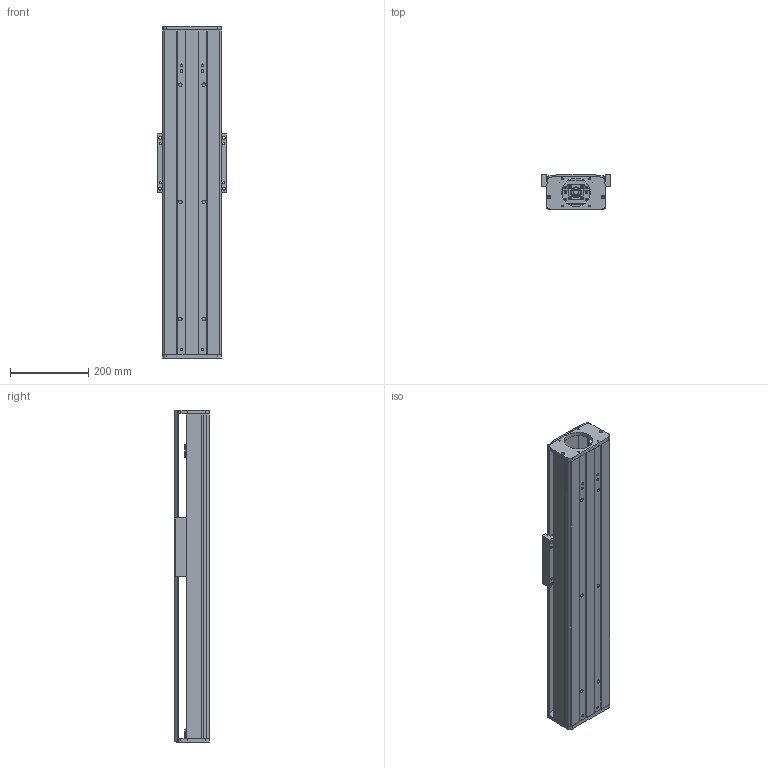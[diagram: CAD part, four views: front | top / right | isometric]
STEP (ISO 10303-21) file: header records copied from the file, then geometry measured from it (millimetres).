
FILE_DESCRIPTION (( 'STEP AP203' ), '1' );
FILE_NAME ('CF150-P550.STEP', '2016-02-23T05:20:21', ( 'Sky123.Org' ), ( 'Sky123.Org' ), 'SwSTEP 2.0', 'SolidWorks 2015', '' );
FILE_SCHEMA (( 'CONFIG_CONTROL_DESIGN' ));
Length unit declared in the file: millimetre
Products named in the file (20): BK15+BF15; BK15; 150-20蹟譫釱; 150-86俋离萇儂假蚾啣; SFU2005-3蹟譫; BF15; 蚾饜极2^蚾饜极1; deep groove ball bearings gb_Rolling bearings 6002 GB 276-94; 150賑輸; ѹȦ-15; 150臏倰第; 150耜啣; 长撑圈-15; HGR15絳寢; CF150裔啣; M15X1坶踡蹟譫; hGH15CA賑輸; CF150-P550; 撑圈-15
Assembly tree (24 placements, depth 3):
  CF150-P550
    150臏倰第
    HGR15絳寢  x2
    hGH15CA賑輸  x4
    BK15+BF15
    150-20蹟譫釱
    150-86俋离萇儂假蚾啣
    BF15
    BK15
      deep groove ball bearings gb_Rolling bearings 6002 GB 276-94  x2
      ѹȦ-15
      长撑圈-15
      M15X1坶踡蹟譫
      撑圈-15
      BK15
    蚾饜极2^蚾饜极1
      SFU2005-3蹟譫
    150賑輸
    150耜啣
    CF150裔啣
Bounding box: 175 x 89 x 850.24 mm (x, y, z)
Volume: 4477509.2 mm3; surface area: 1400744 mm2
Topology: 22 solids, 22 shells, 1448 faces, 4394 edges, 2926 vertices
Faces by surface type: cylinder 707, plane 545, torus 112, sphere 64, cone 16, bspline 4
Entity records: 114916 total; most frequent: CARTESIAN_POINT 85154, ORIENTED_EDGE 6010, DIRECTION 5523, EDGE_CURVE 3005, AXIS2_PLACEMENT_3D 2084, VERTEX_POINT 2000, EDGE_LOOP 1357, VECTOR 1355
